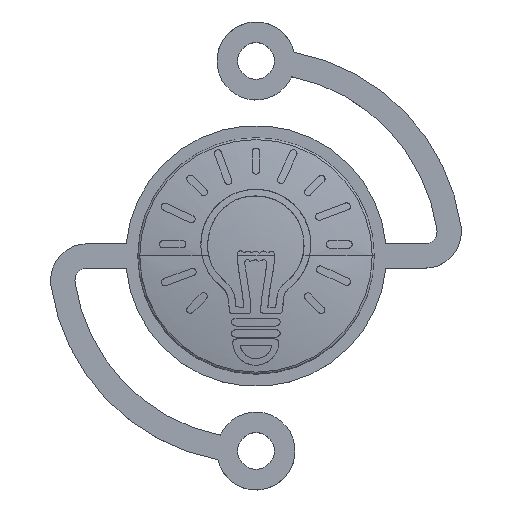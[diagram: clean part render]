
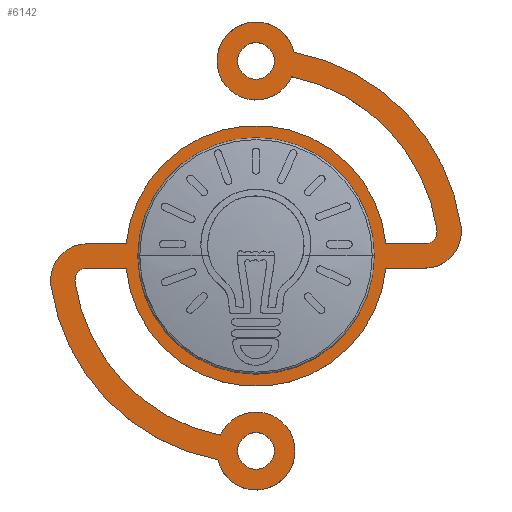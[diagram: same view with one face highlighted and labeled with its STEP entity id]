
A CAD part, top view. The second image highlights one B-rep face of the part: STEP entity #6142.
In plain terms, the highlighted planar face has unit normal (0, 0, 1).
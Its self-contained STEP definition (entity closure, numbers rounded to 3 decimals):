
#2474=CARTESIAN_POINT('',(6.928,1.,0.));
#2475=DIRECTION('',(0.,0.,-1.));
#2476=DIRECTION('',(0.99,0.143,0.));
#2477=AXIS2_PLACEMENT_3D('',#2474,#2475,#2476);
#2479=DIRECTION('',(-1.,0.,0.));
#2480=VECTOR('',#2479,1.602);
#2481=CARTESIAN_POINT('',(6.928,-0.5,0.));
#2482=LINE('',#2481,#2480);
#2483=CARTESIAN_POINT('',(0.,0.,0.));
#2484=DIRECTION('',(0.,0.,-1.));
#2485=DIRECTION('',(0.996,-0.093,0.));
#2486=AXIS2_PLACEMENT_3D('',#2483,#2484,#2485);
#2488=DIRECTION('',(-1.,0.,0.));
#2489=VECTOR('',#2488,1.602);
#2490=CARTESIAN_POINT('',(-5.327,-0.5,0.));
#2491=LINE('',#2490,#2489);
#2492=CARTESIAN_POINT('',(-6.928,-1.,0.));
#2493=DIRECTION('',(0.,0.,1.));
#2494=DIRECTION('',(0.,1.,0.));
#2495=AXIS2_PLACEMENT_3D('',#2492,#2493,#2494);
#2497=CARTESIAN_POINT('',(0.,0.,0.));
#2498=DIRECTION('',(0.,0.,1.));
#2499=DIRECTION('',(-0.99,-0.143,0.));
#2500=AXIS2_PLACEMENT_3D('',#2497,#2498,#2499);
#2502=CARTESIAN_POINT('',(0.,-8.,0.));
#2503=DIRECTION('',(0.,0.,-1.));
#2504=DIRECTION('',(-0.915,0.403,0.));
#2505=AXIS2_PLACEMENT_3D('',#2502,#2503,#2504);
#2507=CARTESIAN_POINT('',(0.,-8.,0.));
#2508=DIRECTION('',(0.,0.,-1.));
#2509=DIRECTION('',(1.,0.,0.));
#2510=AXIS2_PLACEMENT_3D('',#2507,#2508,#2509);
#2512=CARTESIAN_POINT('',(0.,-8.,0.));
#2513=DIRECTION('',(0.,0.,-1.));
#2514=DIRECTION('',(0.915,-0.403,0.));
#2515=AXIS2_PLACEMENT_3D('',#2512,#2513,#2514);
#2517=CARTESIAN_POINT('',(0.,0.,0.));
#2518=DIRECTION('',(0.,0.,-1.));
#2519=DIRECTION('',(-0.184,-0.983,0.));
#2520=AXIS2_PLACEMENT_3D('',#2517,#2518,#2519);
#2522=CARTESIAN_POINT('',(-6.928,-1.,0.));
#2523=DIRECTION('',(0.,0.,-1.));
#2524=DIRECTION('',(-0.99,-0.143,0.));
#2525=AXIS2_PLACEMENT_3D('',#2522,#2523,#2524);
#2527=DIRECTION('',(1.,0.,0.));
#2528=VECTOR('',#2527,1.602);
#2529=CARTESIAN_POINT('',(-6.928,0.5,0.));
#2530=LINE('',#2529,#2528);
#2531=CARTESIAN_POINT('',(0.,0.,0.));
#2532=DIRECTION('',(0.,0.,-1.));
#2533=DIRECTION('',(-0.996,0.093,0.));
#2534=AXIS2_PLACEMENT_3D('',#2531,#2532,#2533);
#2536=DIRECTION('',(1.,0.,0.));
#2537=VECTOR('',#2536,1.602);
#2538=CARTESIAN_POINT('',(5.327,0.5,0.));
#2539=LINE('',#2538,#2537);
#2540=CARTESIAN_POINT('',(6.928,1.,0.));
#2541=DIRECTION('',(0.,0.,1.));
#2542=DIRECTION('',(0.,-1.,0.));
#2543=AXIS2_PLACEMENT_3D('',#2540,#2541,#2542);
#2545=CARTESIAN_POINT('',(0.,0.,0.));
#2546=DIRECTION('',(0.,0.,1.));
#2547=DIRECTION('',(0.99,0.143,0.));
#2548=AXIS2_PLACEMENT_3D('',#2545,#2546,#2547);
#2550=CARTESIAN_POINT('',(0.,8.,0.));
#2551=DIRECTION('',(0.,0.,-1.));
#2552=DIRECTION('',(0.915,-0.403,0.));
#2553=AXIS2_PLACEMENT_3D('',#2550,#2551,#2552);
#2555=CARTESIAN_POINT('',(0.,8.,0.));
#2556=DIRECTION('',(0.,0.,-1.));
#2557=DIRECTION('',(-1.,0.,0.));
#2558=AXIS2_PLACEMENT_3D('',#2555,#2556,#2557);
#2560=CARTESIAN_POINT('',(0.,8.,0.));
#2561=DIRECTION('',(0.,0.,-1.));
#2562=DIRECTION('',(-0.915,0.403,0.));
#2563=AXIS2_PLACEMENT_3D('',#2560,#2561,#2562);
#2565=CARTESIAN_POINT('',(0.,0.,0.));
#2566=DIRECTION('',(0.,0.,-1.));
#2567=DIRECTION('',(0.184,0.983,0.));
#2568=AXIS2_PLACEMENT_3D('',#2565,#2566,#2567);
#2570=CARTESIAN_POINT('',(0.,8.,0.));
#2571=DIRECTION('',(0.,0.,1.));
#2572=DIRECTION('',(-1.,0.,0.));
#2573=AXIS2_PLACEMENT_3D('',#2570,#2571,#2572);
#2575=CARTESIAN_POINT('',(0.,8.,0.));
#2576=DIRECTION('',(0.,0.,1.));
#2577=DIRECTION('',(1.,0.,0.));
#2578=AXIS2_PLACEMENT_3D('',#2575,#2576,#2577);
#2580=CARTESIAN_POINT('',(0.,0.,0.));
#2581=DIRECTION('',(0.,0.,1.));
#2582=DIRECTION('',(1.,0.,0.));
#2583=AXIS2_PLACEMENT_3D('',#2580,#2581,#2582);
#2585=CARTESIAN_POINT('',(0.,0.,0.));
#2586=DIRECTION('',(0.,0.,1.));
#2587=DIRECTION('',(-1.,0.,0.));
#2588=AXIS2_PLACEMENT_3D('',#2585,#2586,#2587);
#2590=CARTESIAN_POINT('',(0.,-8.,0.));
#2591=DIRECTION('',(0.,0.,1.));
#2592=DIRECTION('',(-1.,0.,0.));
#2593=AXIS2_PLACEMENT_3D('',#2590,#2591,#2592);
#2595=CARTESIAN_POINT('',(0.,-8.,0.));
#2596=DIRECTION('',(0.,0.,1.));
#2597=DIRECTION('',(1.,0.,0.));
#2598=AXIS2_PLACEMENT_3D('',#2595,#2596,#2597);
#3806=CARTESIAN_POINT('',(-4.85,0.,0.));
#3807=VERTEX_POINT('',#3806);
#3808=CARTESIAN_POINT('',(4.85,0.,0.));
#3809=VERTEX_POINT('',#3808);
#3812=CARTESIAN_POINT('',(8.413,1.214,0.));
#3813=CARTESIAN_POINT('',(6.928,-0.5,0.));
#3814=VERTEX_POINT('',#3812);
#3815=VERTEX_POINT('',#3813);
#3816=CARTESIAN_POINT('',(5.327,-0.5,0.));
#3817=VERTEX_POINT('',#3816);
#3818=CARTESIAN_POINT('',(-5.327,-0.5,0.));
#3819=VERTEX_POINT('',#3818);
#3820=CARTESIAN_POINT('',(-6.928,-0.5,0.));
#3821=VERTEX_POINT('',#3820);
#3822=CARTESIAN_POINT('',(-7.423,-1.071,0.));
#3823=VERTEX_POINT('',#3822);
#3824=CARTESIAN_POINT('',(-1.465,-7.356,0.));
#3825=VERTEX_POINT('',#3824);
#3826=CARTESIAN_POINT('',(1.6,-8.,0.));
#3827=VERTEX_POINT('',#3826);
#3828=CARTESIAN_POINT('',(1.465,-8.644,0.));
#3829=VERTEX_POINT('',#3828);
#3830=CARTESIAN_POINT('',(-1.56,-8.356,0.));
#3831=VERTEX_POINT('',#3830);
#3832=CARTESIAN_POINT('',(-8.413,-1.214,0.));
#3833=VERTEX_POINT('',#3832);
#3834=CARTESIAN_POINT('',(-6.928,0.5,0.));
#3835=VERTEX_POINT('',#3834);
#3836=CARTESIAN_POINT('',(-5.327,0.5,0.));
#3837=VERTEX_POINT('',#3836);
#3838=CARTESIAN_POINT('',(5.327,0.5,0.));
#3839=VERTEX_POINT('',#3838);
#3840=CARTESIAN_POINT('',(6.928,0.5,0.));
#3841=VERTEX_POINT('',#3840);
#3842=CARTESIAN_POINT('',(7.423,1.071,0.));
#3843=VERTEX_POINT('',#3842);
#3844=CARTESIAN_POINT('',(1.465,7.356,0.));
#3845=VERTEX_POINT('',#3844);
#3846=CARTESIAN_POINT('',(-1.6,8.,0.));
#3847=VERTEX_POINT('',#3846);
#3848=CARTESIAN_POINT('',(-1.465,8.644,0.));
#3849=VERTEX_POINT('',#3848);
#3850=CARTESIAN_POINT('',(1.56,8.356,0.));
#3851=VERTEX_POINT('',#3850);
#3852=CARTESIAN_POINT('',(-0.75,8.,0.));
#3853=CARTESIAN_POINT('',(0.75,8.,0.));
#3854=VERTEX_POINT('',#3852);
#3855=VERTEX_POINT('',#3853);
#3856=CARTESIAN_POINT('',(-0.75,-8.,0.));
#3857=CARTESIAN_POINT('',(0.75,-8.,0.));
#3858=VERTEX_POINT('',#3856);
#3859=VERTEX_POINT('',#3857);
#6079=CARTESIAN_POINT('',(0.,0.,0.));
#6080=DIRECTION('',(0.,0.,-1.));
#6081=DIRECTION('',(1.,0.,0.));
#6082=AXIS2_PLACEMENT_3D('',#6079,#6080,#6081);
#6083=PLANE('',#6082);
#6085=ORIENTED_EDGE('',*,*,#6084,.T.);
#6087=ORIENTED_EDGE('',*,*,#6086,.T.);
#6089=ORIENTED_EDGE('',*,*,#6088,.T.);
#6091=ORIENTED_EDGE('',*,*,#6090,.T.);
#6093=ORIENTED_EDGE('',*,*,#6092,.T.);
#6095=ORIENTED_EDGE('',*,*,#6094,.T.);
#6097=ORIENTED_EDGE('',*,*,#6096,.T.);
#6099=ORIENTED_EDGE('',*,*,#6098,.T.);
#6101=ORIENTED_EDGE('',*,*,#6100,.T.);
#6103=ORIENTED_EDGE('',*,*,#6102,.T.);
#6105=ORIENTED_EDGE('',*,*,#6104,.T.);
#6107=ORIENTED_EDGE('',*,*,#6106,.T.);
#6109=ORIENTED_EDGE('',*,*,#6108,.T.);
#6111=ORIENTED_EDGE('',*,*,#6110,.T.);
#6113=ORIENTED_EDGE('',*,*,#6112,.T.);
#6115=ORIENTED_EDGE('',*,*,#6114,.T.);
#6117=ORIENTED_EDGE('',*,*,#6116,.T.);
#6119=ORIENTED_EDGE('',*,*,#6118,.T.);
#6121=ORIENTED_EDGE('',*,*,#6120,.T.);
#6123=ORIENTED_EDGE('',*,*,#6122,.T.);
#6124=EDGE_LOOP('',(#6085,#6087,#6089,#6091,#6093,#6095,#6097,#6099,#6101,#6103,
#6105,#6107,#6109,#6111,#6113,#6115,#6117,#6119,#6121,#6123));
#6125=FACE_OUTER_BOUND('',#6124,.F.);
#6127=ORIENTED_EDGE('',*,*,#6126,.T.);
#6129=ORIENTED_EDGE('',*,*,#6128,.T.);
#6130=EDGE_LOOP('',(#6127,#6129));
#6131=FACE_BOUND('',#6130,.F.);
#6132=ORIENTED_EDGE('',*,*,#6060,.T.);
#6133=ORIENTED_EDGE('',*,*,#6043,.T.);
#6134=EDGE_LOOP('',(#6132,#6133));
#6135=FACE_BOUND('',#6134,.F.);
#6137=ORIENTED_EDGE('',*,*,#6136,.T.);
#6139=ORIENTED_EDGE('',*,*,#6138,.T.);
#6140=EDGE_LOOP('',(#6137,#6139));
#6141=FACE_BOUND('',#6140,.F.);
#6142=ADVANCED_FACE('',(#6125,#6131,#6135,#6141),#6083,.F.);
#2478=CIRCLE('',#2477,1.5);
#2487=CIRCLE('',#2486,5.35);
#2496=CIRCLE('',#2495,0.5);
#2501=CIRCLE('',#2500,7.5);
#2506=CIRCLE('',#2505,1.6);
#2511=CIRCLE('',#2510,1.6);
#2516=CIRCLE('',#2515,1.6);
#2521=CIRCLE('',#2520,8.5);
#2526=CIRCLE('',#2525,1.5);
#2535=CIRCLE('',#2534,5.35);
#2544=CIRCLE('',#2543,0.5);
#2549=CIRCLE('',#2548,7.5);
#2554=CIRCLE('',#2553,1.6);
#2559=CIRCLE('',#2558,1.6);
#2564=CIRCLE('',#2563,1.6);
#2569=CIRCLE('',#2568,8.5);
#2574=CIRCLE('',#2573,0.75);
#2579=CIRCLE('',#2578,0.75);
#2584=CIRCLE('',#2583,4.85);
#2589=CIRCLE('',#2588,4.85);
#2594=CIRCLE('',#2593,0.75);
#2599=CIRCLE('',#2598,0.75);
#6043=EDGE_CURVE('',#3807,#3809,#2589,.T.);
#6060=EDGE_CURVE('',#3809,#3807,#2584,.T.);
#6084=EDGE_CURVE('',#3814,#3815,#2478,.T.);
#6086=EDGE_CURVE('',#3815,#3817,#2482,.T.);
#6088=EDGE_CURVE('',#3817,#3819,#2487,.T.);
#6090=EDGE_CURVE('',#3819,#3821,#2491,.T.);
#6092=EDGE_CURVE('',#3821,#3823,#2496,.T.);
#6094=EDGE_CURVE('',#3823,#3825,#2501,.T.);
#6096=EDGE_CURVE('',#3825,#3827,#2506,.T.);
#6098=EDGE_CURVE('',#3827,#3829,#2511,.T.);
#6100=EDGE_CURVE('',#3829,#3831,#2516,.T.);
#6102=EDGE_CURVE('',#3831,#3833,#2521,.T.);
#6104=EDGE_CURVE('',#3833,#3835,#2526,.T.);
#6106=EDGE_CURVE('',#3835,#3837,#2530,.T.);
#6108=EDGE_CURVE('',#3837,#3839,#2535,.T.);
#6110=EDGE_CURVE('',#3839,#3841,#2539,.T.);
#6112=EDGE_CURVE('',#3841,#3843,#2544,.T.);
#6114=EDGE_CURVE('',#3843,#3845,#2549,.T.);
#6116=EDGE_CURVE('',#3845,#3847,#2554,.T.);
#6118=EDGE_CURVE('',#3847,#3849,#2559,.T.);
#6120=EDGE_CURVE('',#3849,#3851,#2564,.T.);
#6122=EDGE_CURVE('',#3851,#3814,#2569,.T.);
#6126=EDGE_CURVE('',#3854,#3855,#2574,.T.);
#6128=EDGE_CURVE('',#3855,#3854,#2579,.T.);
#6136=EDGE_CURVE('',#3858,#3859,#2594,.T.);
#6138=EDGE_CURVE('',#3859,#3858,#2599,.T.);
